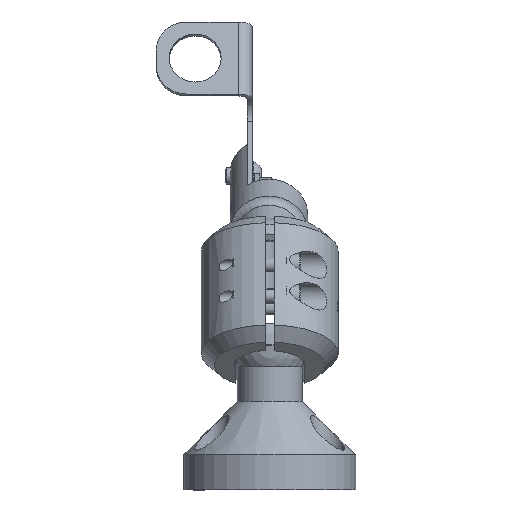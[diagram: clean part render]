
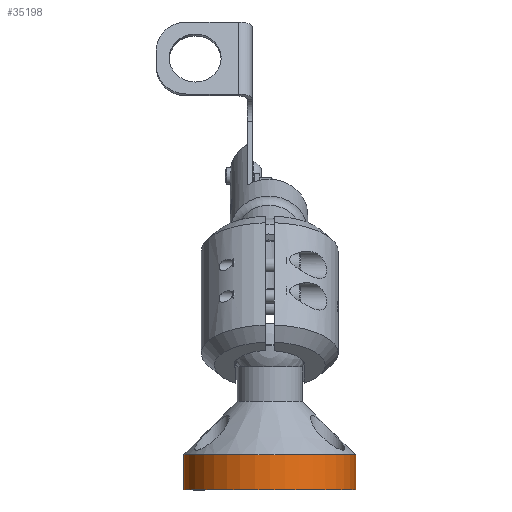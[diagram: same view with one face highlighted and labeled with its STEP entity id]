
A CAD part, left-side view. The second image highlights one B-rep face of the part: STEP entity #35198.
In plain terms, the highlighted cylindrical face has radius 31.559 mm (diameter 63.119 mm), a partial arc.
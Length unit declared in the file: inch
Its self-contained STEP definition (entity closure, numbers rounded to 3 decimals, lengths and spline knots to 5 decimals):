
#2089 = VERTEX_POINT ( 'NONE', #36921 ) ;
#2754 = CARTESIAN_POINT ( 'NONE',  ( 1.165, -0.255, -0.42471 ) ) ;
#5283 = DIRECTION ( 'NONE',  ( 0., 0., 1. ) ) ;
#6216 = CARTESIAN_POINT ( 'NONE',  ( 1.165, -0.255, 0.42471 ) ) ;
#6632 = DIRECTION ( 'NONE',  ( 0., -1., 0. ) ) ;
#6839 = DIRECTION ( 'NONE',  ( 0., 0., 1. ) ) ;
#7087 = VERTEX_POINT ( 'NONE', #8147 ) ;
#8147 = CARTESIAN_POINT ( 'NONE',  ( 1.165, 0.255, 0.42471 ) ) ;
#8995 = CARTESIAN_POINT ( 'NONE',  ( 1.165, 0.255, -0.42471 ) ) ;
#11513 = EDGE_LOOP ( 'NONE', ( #23999, #27273, #19526, #20783 ) ) ;
#11637 = CARTESIAN_POINT ( 'NONE',  ( -0.00266, -0.255, 0. ) ) ;
#12928 = DIRECTION ( 'NONE',  ( 0., 0., 1. ) ) ;
#16225 = CYLINDRICAL_SURFACE ( 'NONE', #26474, 1.2425 ) ;
#16585 = VECTOR ( 'NONE', #32978, 39.37008 ) ;
#17814 = VERTEX_POINT ( 'NONE', #21892 ) ;
#18554 = CIRCLE ( 'NONE', #36106, 1.2425 ) ;
#19526 = ORIENTED_EDGE ( 'NONE', *, *, #42604, .F. ) ;
#19606 = CARTESIAN_POINT ( 'NONE',  ( -0.00266, 0.255, 0. ) ) ;
#20751 = EDGE_CURVE ( 'NONE', #17814, #7087, #36066, .T. ) ;
#20783 = ORIENTED_EDGE ( 'NONE', *, *, #20751, .T. ) ;
#21061 = AXIS2_PLACEMENT_3D ( 'NONE', #11637, #41497, #5283 ) ;
#21855 = VECTOR ( 'NONE', #26684, 39.37008 ) ;
#21892 = CARTESIAN_POINT ( 'NONE',  ( 1.165, -0.255, 0.42471 ) ) ;
#22968 = EDGE_CURVE ( 'NONE', #2089, #31198, #39399, .T. ) ;
#23999 = ORIENTED_EDGE ( 'NONE', *, *, #30868, .T. ) ;
#26474 = AXIS2_PLACEMENT_3D ( 'NONE', #42985, #37212, #12928 ) ;
#26684 = DIRECTION ( 'NONE',  ( 0., 1., 0. ) ) ;
#27273 = ORIENTED_EDGE ( 'NONE', *, *, #22968, .F. ) ;
#30868 = EDGE_CURVE ( 'NONE', #7087, #31198, #18554, .T. ) ;
#31198 = VERTEX_POINT ( 'NONE', #8995 ) ;
#32977 = CIRCLE ( 'NONE', #21061, 1.2425 ) ;
#32978 = DIRECTION ( 'NONE',  ( 0., 1., 0. ) ) ;
#35198 = ADVANCED_FACE ( 'NONE', ( #39483 ), #16225, .T. ) ;
#36066 = LINE ( 'NONE', #6216, #16585 ) ;
#36106 = AXIS2_PLACEMENT_3D ( 'NONE', #19606, #6632, #6839 ) ;
#36921 = CARTESIAN_POINT ( 'NONE',  ( 1.165, -0.255, -0.42471 ) ) ;
#37212 = DIRECTION ( 'NONE',  ( 0., 1., 0. ) ) ;
#39399 = LINE ( 'NONE', #2754, #21855 ) ;
#39483 = FACE_OUTER_BOUND ( 'NONE', #11513, .T. ) ;
#41497 = DIRECTION ( 'NONE',  ( 0., -1., 0. ) ) ;
#42604 = EDGE_CURVE ( 'NONE', #17814, #2089, #32977, .T. ) ;
#42985 = CARTESIAN_POINT ( 'NONE',  ( -0.00266, -0.255, 0. ) ) ;
